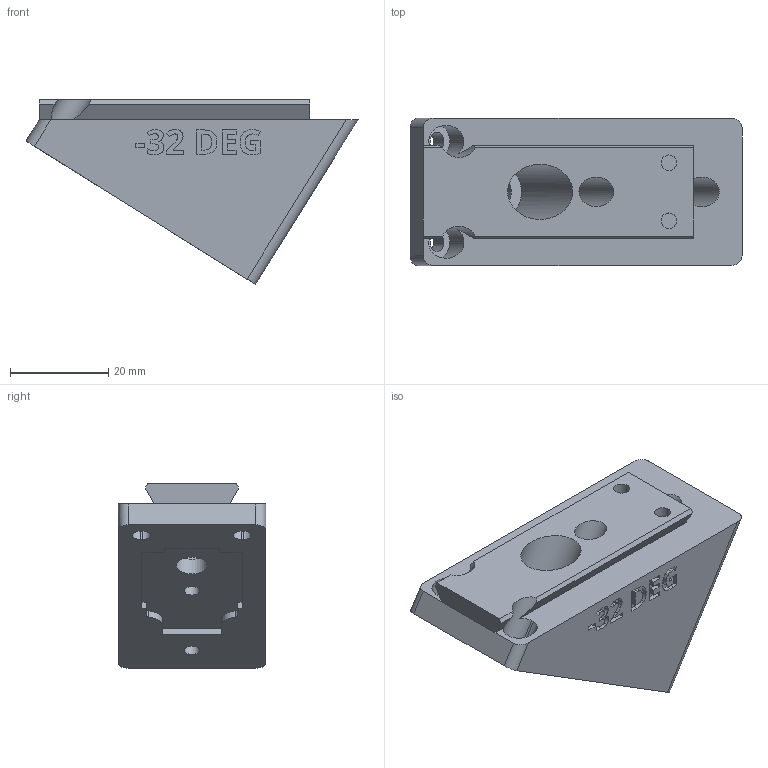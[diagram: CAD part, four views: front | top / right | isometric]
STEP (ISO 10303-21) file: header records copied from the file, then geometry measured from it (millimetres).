
FILE_DESCRIPTION(/* description */ ('STEP AP242 Edition 2','CAx-IF Rec.Pracs.---Representation and Presentation of Product Manufacturing Information (PMI)---4.0---2014-10-13','CAx-IF Rec.Pracs.---3D Tessellated Geometry---0.4---2014-09-14','2;1','CAx-IF Rec.Pracs.---User Defined Attributes---1.5---2016-08-15'),/* implementation_level */ '2;1');
FILE_NAME(/* name */ 'Camera Wedges - CAMERA MOUNTING WEDGE, NEG, -32 DEG',/* time_stamp */ '2026-07-08T20:36:35Z',/* author */ (''),/* organization */ (''),/* preprocessor_version */ 'ST-DEVELOPER v20',/* originating_system */ 'ONSHAPE BY PTC INC, 1.217',/* authorisation */ ' ');
FILE_SCHEMA (('AP242_MANAGED_MODEL_BASED_3D_ENGINEERING_MIM_LF { 1 0 10303 442 3 1 4 }'));
Length unit declared in the file: metre
Products named in the file (1): CAMERA MOUNTING WEDGE, NEG, -32 DEG
Bounding box: 67.52 x 30 x 37.51 mm (x, y, z)
Volume: 35773.8 mm3; surface area: 10363.3 mm2
Topology: 1 solids, 1 shells, 287 faces, 796 edges, 530 vertices
Faces by surface type: plane 149, bspline 80, cylinder 58
Full cylindrical faces by diameter (mm): 3.2 x4, 6 x2, 6.4 x1, 11.2 x1
Entity records: 9416 total; most frequent: CARTESIAN_POINT 2484, ORIENTED_EDGE 1574, DIRECTION 1172, EDGE_CURVE 787, VERTEX_POINT 529, LINE 498, VECTOR 498, AXIS2_PLACEMENT_3D 337
